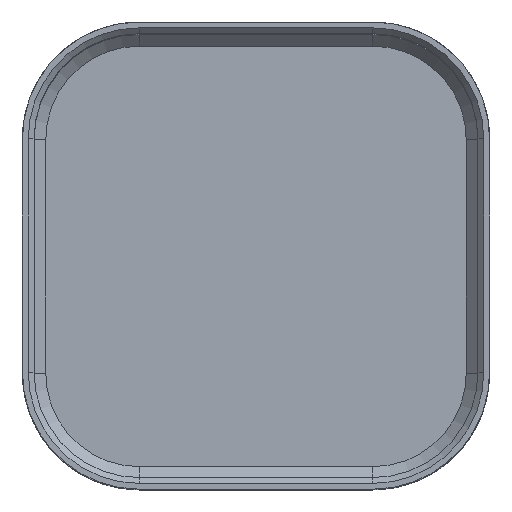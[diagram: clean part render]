
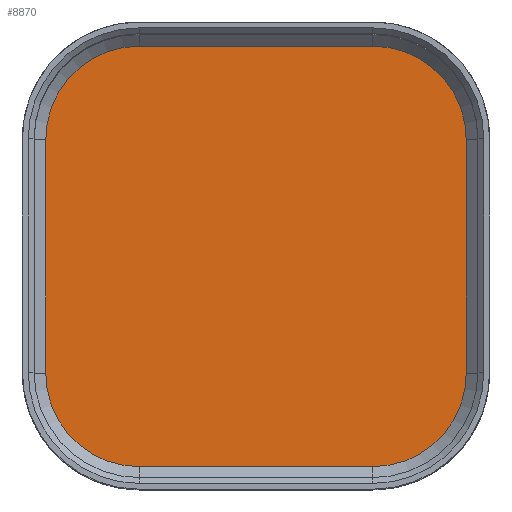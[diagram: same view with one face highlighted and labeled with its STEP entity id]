
A CAD part, top view. The second image highlights one B-rep face of the part: STEP entity #8870.
In plain terms, the highlighted planar face has unit normal (0, 0, 1).
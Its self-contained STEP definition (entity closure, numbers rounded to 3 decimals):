
#1466=CIRCLE('',#9155,16.);
#1468=CIRCLE('',#9159,16.);
#1470=CIRCLE('',#9163,16.);
#1472=CIRCLE('',#9167,16.);
#1770=FACE_OUTER_BOUND('',#2156,.T.);
#2156=EDGE_LOOP('',(#6318,#6319,#6320,#6321,#6322,#6323,#6324,#6325));
#2742=LINE('',#11458,#3104);
#2747=LINE('',#11472,#3109);
#2751=LINE('',#11484,#3113);
#2755=LINE('',#11496,#3117);
#3104=VECTOR('',#9803,10.);
#3109=VECTOR('',#9816,10.);
#3113=VECTOR('',#9828,10.);
#3117=VECTOR('',#9840,10.);
#3466=VERTEX_POINT('',#11455);
#3467=VERTEX_POINT('',#11457);
#3470=VERTEX_POINT('',#11464);
#3472=VERTEX_POINT('',#11470);
#3474=VERTEX_POINT('',#11476);
#3476=VERTEX_POINT('',#11482);
#3478=VERTEX_POINT('',#11488);
#3480=VERTEX_POINT('',#11494);
#4558=EDGE_CURVE('',#3466,#3467,#2742,.T.);
#4562=EDGE_CURVE('',#3470,#3466,#1466,.T.);
#4565=EDGE_CURVE('',#3472,#3470,#2747,.T.);
#4568=EDGE_CURVE('',#3474,#3472,#1468,.T.);
#4571=EDGE_CURVE('',#3476,#3474,#2751,.T.);
#4574=EDGE_CURVE('',#3478,#3476,#1470,.T.);
#4577=EDGE_CURVE('',#3480,#3478,#2755,.T.);
#4579=EDGE_CURVE('',#3467,#3480,#1472,.T.);
#6318=ORIENTED_EDGE('',*,*,#4558,.F.);
#6319=ORIENTED_EDGE('',*,*,#4562,.F.);
#6320=ORIENTED_EDGE('',*,*,#4565,.F.);
#6321=ORIENTED_EDGE('',*,*,#4568,.F.);
#6322=ORIENTED_EDGE('',*,*,#4571,.F.);
#6323=ORIENTED_EDGE('',*,*,#4574,.F.);
#6324=ORIENTED_EDGE('',*,*,#4577,.F.);
#6325=ORIENTED_EDGE('',*,*,#4579,.F.);
#8841=PLANE('',#9259);
#8870=ADVANCED_FACE('',(#1770),#8841,.T.);
#9155=AXIS2_PLACEMENT_3D('',#11466,#9809,#9810);
#9159=AXIS2_PLACEMENT_3D('',#11478,#9821,#9822);
#9163=AXIS2_PLACEMENT_3D('',#11490,#9833,#9834);
#9167=AXIS2_PLACEMENT_3D('',#11499,#9844,#9845);
#9259=AXIS2_PLACEMENT_3D('',#13859,#10052,#10053);
#9803=DIRECTION('',(1.,0.,0.));
#9809=DIRECTION('center_axis',(0.,0.,-1.));
#9810=DIRECTION('ref_axis',(0.,1.,0.));
#9816=DIRECTION('',(0.,1.,0.));
#9821=DIRECTION('center_axis',(0.,0.,-1.));
#9822=DIRECTION('ref_axis',(-1.,0.,0.));
#9828=DIRECTION('',(-1.,0.,0.));
#9833=DIRECTION('center_axis',(0.,0.,-1.));
#9834=DIRECTION('ref_axis',(0.,-1.,0.));
#9840=DIRECTION('',(0.,-1.,0.));
#9844=DIRECTION('center_axis',(0.,0.,-1.));
#9845=DIRECTION('ref_axis',(1.,0.,0.));
#10052=DIRECTION('center_axis',(0.,0.,1.));
#10053=DIRECTION('ref_axis',(1.,0.,0.));
#11455=CARTESIAN_POINT('',(-20.,36.,2.));
#11457=CARTESIAN_POINT('',(20.,36.,2.));
#11458=CARTESIAN_POINT('',(10.,36.,2.));
#11464=CARTESIAN_POINT('',(-36.,20.,2.));
#11466=CARTESIAN_POINT('Origin',(-20.,20.,2.));
#11470=CARTESIAN_POINT('',(-36.,-20.,2.));
#11472=CARTESIAN_POINT('',(-36.,10.,2.));
#11476=CARTESIAN_POINT('',(-20.,-36.,2.));
#11478=CARTESIAN_POINT('Origin',(-20.,-20.,2.));
#11482=CARTESIAN_POINT('',(20.,-36.,2.));
#11484=CARTESIAN_POINT('',(-10.,-36.,2.));
#11488=CARTESIAN_POINT('',(36.,-20.,2.));
#11490=CARTESIAN_POINT('Origin',(20.,-20.,2.));
#11494=CARTESIAN_POINT('',(36.,20.,2.));
#11496=CARTESIAN_POINT('',(36.,-10.,2.));
#11499=CARTESIAN_POINT('Origin',(20.,20.,2.));
#13859=CARTESIAN_POINT('Origin',(0.,0.,2.));
